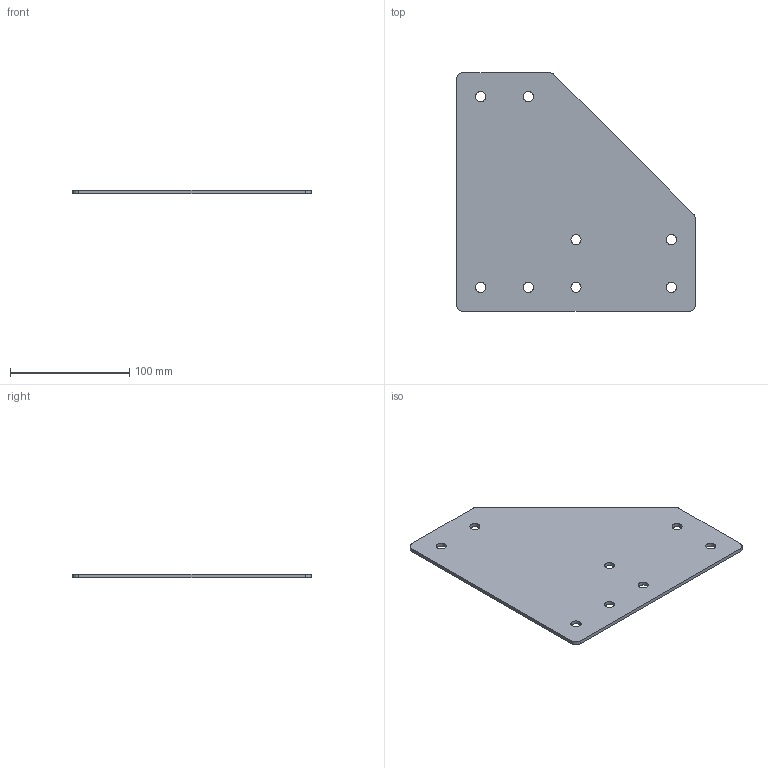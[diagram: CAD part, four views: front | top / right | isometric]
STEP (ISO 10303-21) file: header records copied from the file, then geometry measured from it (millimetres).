
FILE_DESCRIPTION(/* description */ ('CONNECTION PLATE 90° FOR 80x80'),/* implementation_level */ '2;1');
FILE_NAME(/* name */ '\\carryline.intra\privat\users\mathias\Desktop\Tillfälliga filer\100-5035.stp',/* time_stamp */ '2018-11-20T11:05:48+01:00',/* author */ ('PL'),/* organization */ ('CARRYLINE'),/* preprocessor_version */ 'ST-DEVELOPER v17',/* originating_system */ 'Autodesk Inventor 2018',/* authorisation */ '');
FILE_SCHEMA (('AUTOMOTIVE_DESIGN { 1 0 10303 214 3 1 1 }'));
Length unit declared in the file: millimetre
Products named in the file (1): 100-5035
Bounding box: 200 x 200 x 3 mm (x, y, z)
Volume: 96986.6 mm3; surface area: 67467.1 mm2
Topology: 1 solids, 1 shells, 20 faces, 62 edges, 44 vertices
Faces by surface type: cylinder 13, plane 7
Full cylindrical faces by diameter (mm): 8.5 x8
Entity records: 795 total; most frequent: DIRECTION 138, CARTESIAN_POINT 127, ORIENTED_EDGE 124, EDGE_CURVE 62, AXIS2_PLACEMENT_3D 55, VERTEX_POINT 44, EDGE_LOOP 36, CIRCLE 34
